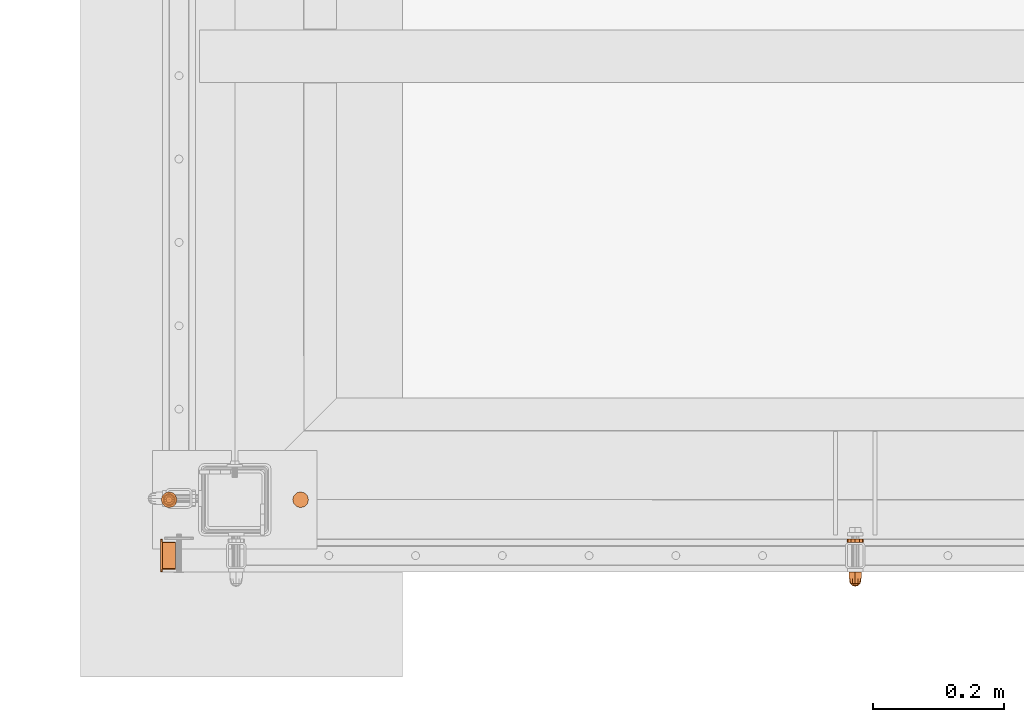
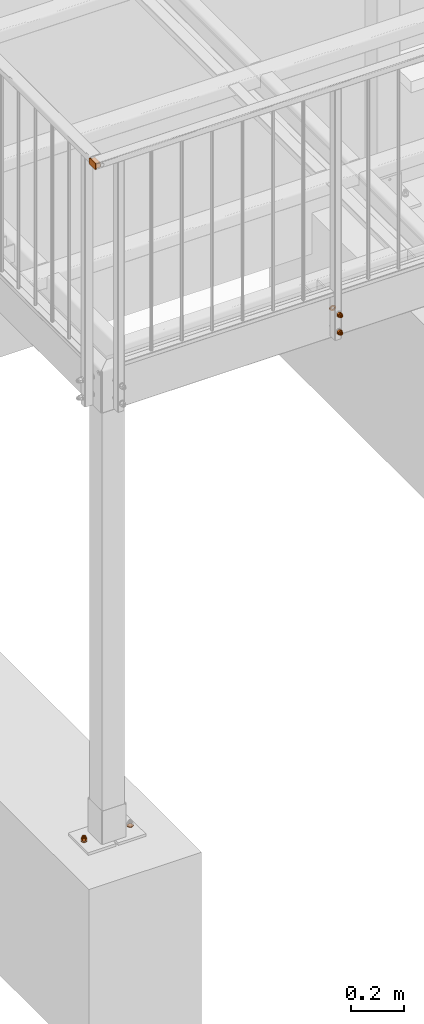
# One storey, part 99 of 116: 7 proxies.
"""IFC2X3 building model written with IfcOpenShell, lengths in millimetres."""

from ifc_helpers import new_model, entity, si_unit, converted_unit, origin_with_axes, place, context, project, spatial, faceted_brep, material, element, save


model = new_model("IFC2X3")

# Units and contexts
model_context = context("Model", 3, precision=1e-09, world=origin_with_axes())
ifc_project = project(units=[si_unit("LENGTHUNIT", "METRE", prefix="MILLI"), si_unit("AREAUNIT", "SQUARE_METRE"), si_unit("VOLUMEUNIT", "CUBIC_METRE"), converted_unit("PLANEANGLEUNIT", "DEGREE", entity("IfcPlaneAngleMeasure", 0.01745329), si_unit("PLANEANGLEUNIT", "RADIAN"), dimensions=[0, 0, 0, 0, 0, 0, 0])], contexts=[model_context])

# Site, building, storey
site_placement = place(None, origin_with_axes())
site = spatial("IfcSite", under=ifc_project, at=site_placement, Name="Site", CompositionType="ELEMENT")
building_placement = place(site_placement, origin_with_axes())
building = spatial("IfcBuilding", under=site, at=building_placement, Name="Struktur 1", CompositionType="ELEMENT")
storey_placement = place(building_placement, origin_with_axes())
storey = spatial("IfcBuildingStorey", under=building, at=storey_placement, Name="Default Storey", CompositionType="ELEMENT", Elevation=0.0)

# Proxies
ifc_material = material(Name="Kein")
proxy_1_placement = place(None, origin_with_axes())
element("IfcBuildingElementProxy", 1, at=proxy_1_placement, inside=storey, material=ifc_material, ObjectType="-", context=model_context, shape_type="Brep", body=[
    faceted_brep([(56275.049134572, 9022.359883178, -145.0), (56275.049134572, 9012.359883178, -145.0), (56275.852982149, 9012.359883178, -148.0), (56275.852982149, 9022.359883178, -148.0), (56278.049134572, 9012.359883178, -150.196152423), (56278.049134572, 9022.359883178, -150.196152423), (56275.852982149, 9022.359883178, -142.0), (56275.852982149, 9012.359883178, -142.0), (56271.569265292, 9022.359883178, -139.526794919), (56281.049134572, 9022.359883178, -134.053589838), (56290.529003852, 9022.359883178, -139.526794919), (56290.529003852, 9022.359883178, -150.473205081), (56281.049134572, 9022.359883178, -155.946410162), (56271.569265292, 9022.359883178, -150.473205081), (56278.049134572, 9022.359883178, -139.803847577), (56281.049134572, 9022.359883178, -151.0), (56284.049134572, 9022.359883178, -150.196152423), (56286.245286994, 9022.359883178, -148.0), (56287.049134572, 9022.359883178, -145.0), (56286.245286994, 9022.359883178, -142.0), (56284.049134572, 9022.359883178, -139.803847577), (56281.049134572, 9022.359883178, -139.0), (56281.049134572, 9012.359883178, -134.053589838), (56271.569265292, 9012.359883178, -139.526794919), (56271.569265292, 9012.359883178, -150.473205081), (56281.049134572, 9012.359883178, -155.946410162), (56290.529003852, 9012.359883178, -150.473205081), (56290.529003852, 9012.359883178, -139.526794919), (56278.049134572, 9012.359883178, -139.803847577), (56281.049134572, 9012.359883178, -139.0), (56284.049134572, 9012.359883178, -139.803847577), (56286.245286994, 9012.359883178, -142.0), (56287.049134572, 9012.359883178, -145.0), (56286.245286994, 9012.359883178, -148.0), (56284.049134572, 9012.359883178, -150.196152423), (56281.049134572, 9012.359883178, -151.0)], [[[0, 1, 2, 3]], [[3, 2, 4, 5]], [[1, 0, 6, 7]], [[8, 9, 10, 11, 12, 13], [14, 6, 0, 3, 5, 15, 16, 17, 18, 19, 20, 21]], [[22, 23, 24, 25, 26, 27], [1, 7, 28, 29, 30, 31, 32, 33, 34, 35, 4, 2]], [[7, 6, 14, 28]], [[24, 23, 8, 13]], [[5, 4, 35, 15]], [[13, 12, 25, 24]], [[28, 14, 21, 29]], [[23, 22, 9, 8]], [[15, 35, 34, 16]], [[12, 11, 26, 25]], [[29, 21, 20, 30]], [[22, 27, 10, 9]], [[16, 34, 33, 17]], [[27, 26, 11, 10]], [[30, 20, 19, 31]], [[17, 33, 32, 18]], [[31, 19, 18, 32]]]),
    faceted_brep([(56281.049134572, 9012.359883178, -136.0), (56281.049134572, 9009.359883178, -136.0), (56285.549134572, 9009.359883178, -137.205771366), (56285.549134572, 9012.359883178, -137.205771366), (56276.549134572, 9012.359883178, -137.205771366), (56276.549134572, 9009.359883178, -137.205771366), (56273.254905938, 9009.359883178, -149.5), (56276.549134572, 9009.359883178, -152.794228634), (56281.049134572, 9009.359883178, -154.0), (56285.549134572, 9009.359883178, -152.794228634), (56288.843363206, 9009.359883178, -149.5), (56290.049134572, 9009.359883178, -145.0), (56288.843363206, 9009.359883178, -140.5), (56273.254905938, 9009.359883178, -140.5), (56272.049134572, 9009.359883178, -145.0), (56288.843363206, 9012.359883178, -149.5), (56285.549134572, 9012.359883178, -152.794228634), (56281.049134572, 9012.359883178, -154.0), (56276.549134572, 9012.359883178, -152.794228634), (56273.254905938, 9012.359883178, -149.5), (56272.049134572, 9012.359883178, -145.0), (56273.254905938, 9012.359883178, -140.5), (56288.843363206, 9012.359883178, -140.5), (56290.049134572, 9012.359883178, -145.0)], [[[0, 1, 2, 3]], [[1, 0, 4, 5]], [[6, 7, 8, 9, 10, 11, 12, 2, 1, 5, 13, 14]], [[15, 16, 17, 18, 19, 20, 21, 4, 0, 3, 22, 23]], [[3, 2, 12, 22]], [[5, 4, 21, 13]], [[22, 12, 11, 23]], [[13, 21, 20, 14]], [[7, 18, 17, 8]], [[19, 6, 14, 20]], [[18, 7, 6, 19]], [[23, 11, 10, 15]], [[8, 17, 16, 9]], [[15, 10, 9, 16]]]),
    faceted_brep([(56273.254905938, 9009.359883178, -140.5), (56274.299134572, 9004.859883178, -141.102885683), (56277.152020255, 9004.859883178, -138.25), (56276.549134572, 9009.359883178, -137.205771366), (56288.843363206, 9009.359883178, -149.5), (56285.549134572, 9009.359883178, -152.794228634), (56281.049134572, 9009.359883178, -154.0), (56276.549134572, 9009.359883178, -152.794228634), (56273.254905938, 9009.359883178, -149.5), (56272.049134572, 9009.359883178, -145.0), (56281.049134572, 9009.359883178, -136.0), (56285.549134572, 9009.359883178, -137.205771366), (56288.843363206, 9009.359883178, -140.5), (56290.049134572, 9009.359883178, -145.0), (56281.049134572, 9004.859883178, -137.205771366), (56273.254905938, 9004.859883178, -145.0), (56276.549134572, 9001.565654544, -145.0), (56277.152020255, 9001.565654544, -142.75), (56284.946248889, 9004.859883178, -138.25), (56278.799134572, 9001.565654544, -141.102885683), (56274.299134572, 9004.859883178, -148.897114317), (56277.152020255, 9001.565654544, -147.25), (56281.049134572, 9001.565654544, -140.5), (56281.049134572, 9000.359883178, -145.0), (56277.152020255, 9004.859883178, -151.75), (56278.799134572, 9001.565654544, -148.897114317), (56281.049134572, 9004.859883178, -152.794228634), (56287.799134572, 9004.859883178, -141.102885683), (56283.299134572, 9001.565654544, -141.102885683), (56281.049134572, 9001.565654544, -149.5), (56284.946248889, 9004.859883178, -151.75), (56283.299134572, 9001.565654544, -148.897114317), (56288.843363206, 9004.859883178, -145.0), (56284.946248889, 9001.565654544, -142.75), (56287.799134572, 9004.859883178, -148.897114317), (56284.946248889, 9001.565654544, -147.25), (56285.549134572, 9001.565654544, -145.0)], [[[0, 1, 2, 3]], [[4, 5, 6, 7, 8, 9, 0, 3, 10, 11, 12, 13]], [[3, 2, 14, 10]], [[15, 16, 17, 1]], [[1, 0, 9, 15]], [[10, 14, 18, 11]], [[1, 17, 19, 2]], [[16, 15, 20, 21]], [[2, 19, 22, 14]], [[23, 17, 16]], [[24, 25, 21, 20]], [[23, 16, 21]], [[24, 7, 6, 26]], [[20, 8, 7, 24]], [[15, 9, 8, 20]], [[11, 18, 27, 12]], [[14, 22, 28, 18]], [[23, 19, 17]], [[26, 29, 25, 24]], [[23, 21, 25]], [[23, 22, 19]], [[26, 6, 5, 30]], [[29, 26, 30, 31]], [[23, 25, 29]], [[12, 27, 32, 13]], [[18, 28, 33, 27]], [[23, 28, 22]], [[23, 29, 31]], [[23, 33, 28]], [[30, 5, 4, 34]], [[31, 30, 34, 35]], [[23, 31, 35]], [[13, 32, 34, 4]], [[27, 33, 36, 32]], [[23, 36, 33]], [[23, 35, 36]], [[35, 34, 32, 36]]]),
])
proxy_2_placement = place(None, origin_with_axes())
element("IfcBuildingElementProxy", 2, at=proxy_2_placement, inside=storey, material=ifc_material, ObjectType="-", context=model_context, shape_type="Brep", body=[
    faceted_brep([(56275.049134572, 9022.359883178, -65.0), (56275.049134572, 9012.359883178, -65.0), (56275.852982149, 9012.359883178, -68.0), (56275.852982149, 9022.359883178, -68.0), (56278.049134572, 9012.359883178, -70.196152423), (56278.049134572, 9022.359883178, -70.196152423), (56275.852982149, 9022.359883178, -62.0), (56275.852982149, 9012.359883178, -62.0), (56271.569265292, 9022.359883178, -59.526794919), (56281.049134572, 9022.359883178, -54.053589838), (56290.529003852, 9022.359883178, -59.526794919), (56290.529003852, 9022.359883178, -70.473205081), (56281.049134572, 9022.359883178, -75.946410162), (56271.569265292, 9022.359883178, -70.473205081), (56278.049134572, 9022.359883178, -59.803847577), (56281.049134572, 9022.359883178, -71.0), (56284.049134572, 9022.359883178, -70.196152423), (56286.245286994, 9022.359883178, -68.0), (56287.049134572, 9022.359883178, -65.0), (56286.245286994, 9022.359883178, -62.0), (56284.049134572, 9022.359883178, -59.803847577), (56281.049134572, 9022.359883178, -59.0), (56281.049134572, 9012.359883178, -54.053589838), (56271.569265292, 9012.359883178, -59.526794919), (56271.569265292, 9012.359883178, -70.473205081), (56281.049134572, 9012.359883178, -75.946410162), (56290.529003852, 9012.359883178, -70.473205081), (56290.529003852, 9012.359883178, -59.526794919), (56278.049134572, 9012.359883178, -59.803847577), (56281.049134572, 9012.359883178, -59.0), (56284.049134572, 9012.359883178, -59.803847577), (56286.245286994, 9012.359883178, -62.0), (56287.049134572, 9012.359883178, -65.0), (56286.245286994, 9012.359883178, -68.0), (56284.049134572, 9012.359883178, -70.196152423), (56281.049134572, 9012.359883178, -71.0)], [[[0, 1, 2, 3]], [[3, 2, 4, 5]], [[1, 0, 6, 7]], [[8, 9, 10, 11, 12, 13], [14, 6, 0, 3, 5, 15, 16, 17, 18, 19, 20, 21]], [[22, 23, 24, 25, 26, 27], [1, 7, 28, 29, 30, 31, 32, 33, 34, 35, 4, 2]], [[7, 6, 14, 28]], [[24, 23, 8, 13]], [[5, 4, 35, 15]], [[13, 12, 25, 24]], [[28, 14, 21, 29]], [[23, 22, 9, 8]], [[15, 35, 34, 16]], [[12, 11, 26, 25]], [[29, 21, 20, 30]], [[22, 27, 10, 9]], [[16, 34, 33, 17]], [[27, 26, 11, 10]], [[30, 20, 19, 31]], [[17, 33, 32, 18]], [[31, 19, 18, 32]]]),
    faceted_brep([(56281.049134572, 9012.359883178, -56.0), (56281.049134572, 9009.359883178, -56.0), (56285.549134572, 9009.359883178, -57.205771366), (56285.549134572, 9012.359883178, -57.205771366), (56276.549134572, 9012.359883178, -57.205771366), (56276.549134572, 9009.359883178, -57.205771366), (56273.254905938, 9009.359883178, -69.5), (56276.549134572, 9009.359883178, -72.794228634), (56281.049134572, 9009.359883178, -74.0), (56285.549134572, 9009.359883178, -72.794228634), (56288.843363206, 9009.359883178, -69.5), (56290.049134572, 9009.359883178, -65.0), (56288.843363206, 9009.359883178, -60.5), (56273.254905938, 9009.359883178, -60.5), (56272.049134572, 9009.359883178, -65.0), (56288.843363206, 9012.359883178, -69.5), (56285.549134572, 9012.359883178, -72.794228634), (56281.049134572, 9012.359883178, -74.0), (56276.549134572, 9012.359883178, -72.794228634), (56273.254905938, 9012.359883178, -69.5), (56272.049134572, 9012.359883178, -65.0), (56273.254905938, 9012.359883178, -60.5), (56288.843363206, 9012.359883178, -60.5), (56290.049134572, 9012.359883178, -65.0)], [[[0, 1, 2, 3]], [[1, 0, 4, 5]], [[6, 7, 8, 9, 10, 11, 12, 2, 1, 5, 13, 14]], [[15, 16, 17, 18, 19, 20, 21, 4, 0, 3, 22, 23]], [[3, 2, 12, 22]], [[5, 4, 21, 13]], [[22, 12, 11, 23]], [[13, 21, 20, 14]], [[7, 18, 17, 8]], [[19, 6, 14, 20]], [[18, 7, 6, 19]], [[23, 11, 10, 15]], [[8, 17, 16, 9]], [[15, 10, 9, 16]]]),
    faceted_brep([(56273.254905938, 9009.359883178, -60.5), (56274.299134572, 9004.859883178, -61.102885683), (56277.152020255, 9004.859883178, -58.25), (56276.549134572, 9009.359883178, -57.205771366), (56288.843363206, 9009.359883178, -69.5), (56285.549134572, 9009.359883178, -72.794228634), (56281.049134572, 9009.359883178, -74.0), (56276.549134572, 9009.359883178, -72.794228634), (56273.254905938, 9009.359883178, -69.5), (56272.049134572, 9009.359883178, -65.0), (56281.049134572, 9009.359883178, -56.0), (56285.549134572, 9009.359883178, -57.205771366), (56288.843363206, 9009.359883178, -60.5), (56290.049134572, 9009.359883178, -65.0), (56281.049134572, 9004.859883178, -57.205771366), (56273.254905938, 9004.859883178, -65.0), (56276.549134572, 9001.565654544, -65.0), (56277.152020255, 9001.565654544, -62.75), (56284.946248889, 9004.859883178, -58.25), (56278.799134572, 9001.565654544, -61.102885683), (56274.299134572, 9004.859883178, -68.897114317), (56277.152020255, 9001.565654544, -67.25), (56281.049134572, 9001.565654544, -60.5), (56281.049134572, 9000.359883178, -65.0), (56277.152020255, 9004.859883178, -71.75), (56278.799134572, 9001.565654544, -68.897114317), (56281.049134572, 9004.859883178, -72.794228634), (56287.799134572, 9004.859883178, -61.102885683), (56283.299134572, 9001.565654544, -61.102885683), (56281.049134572, 9001.565654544, -69.5), (56284.946248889, 9004.859883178, -71.75), (56283.299134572, 9001.565654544, -68.897114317), (56288.843363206, 9004.859883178, -65.0), (56284.946248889, 9001.565654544, -62.75), (56287.799134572, 9004.859883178, -68.897114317), (56284.946248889, 9001.565654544, -67.25), (56285.549134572, 9001.565654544, -65.0)], [[[0, 1, 2, 3]], [[4, 5, 6, 7, 8, 9, 0, 3, 10, 11, 12, 13]], [[3, 2, 14, 10]], [[15, 16, 17, 1]], [[1, 0, 9, 15]], [[10, 14, 18, 11]], [[1, 17, 19, 2]], [[16, 15, 20, 21]], [[2, 19, 22, 14]], [[23, 17, 16]], [[24, 25, 21, 20]], [[23, 16, 21]], [[24, 7, 6, 26]], [[20, 8, 7, 24]], [[15, 9, 8, 20]], [[11, 18, 27, 12]], [[14, 22, 28, 18]], [[23, 19, 17]], [[26, 29, 25, 24]], [[23, 21, 25]], [[23, 22, 19]], [[26, 6, 5, 30]], [[29, 26, 30, 31]], [[23, 25, 29]], [[12, 27, 32, 13]], [[18, 28, 33, 27]], [[23, 28, 22]], [[23, 29, 31]], [[23, 33, 28]], [[30, 5, 4, 34]], [[31, 30, 34, 35]], [[23, 31, 35]], [[13, 32, 34, 4]], [[27, 33, 36, 32]], [[23, 36, 33]], [[23, 35, 36]], [[35, 34, 32, 36]]]),
])
proxy_3_placement = place(None, origin_with_axes())
element("IfcBuildingElementProxy", 3, at=proxy_3_placement, inside=storey, material=ifc_material, ObjectType="-", context=model_context, shape_type="Brep", body=[
    faceted_brep([(56270.223817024, 9067.359883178, -71.25), (56274.799134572, 9067.359883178, -75.825317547), (56281.049134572, 9067.359883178, -77.5), (56287.299134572, 9067.359883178, -75.825317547), (56291.874452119, 9067.359883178, -71.25), (56293.549134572, 9067.359883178, -65.0), (56291.874452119, 9067.359883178, -58.75), (56287.299134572, 9067.359883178, -54.174682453), (56281.049134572, 9067.359883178, -52.5), (56274.799134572, 9067.359883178, -54.174682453), (56270.223817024, 9067.359883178, -58.75), (56268.549134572, 9067.359883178, -65.0), (56281.049134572, 9067.359883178, -71.0), (56278.049134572, 9067.359883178, -70.196152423), (56275.852982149, 9067.359883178, -68.0), (56275.049134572, 9067.359883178, -65.0), (56275.852982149, 9067.359883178, -62.0), (56278.049134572, 9067.359883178, -59.803847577), (56281.049134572, 9067.359883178, -59.0), (56284.049134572, 9067.359883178, -59.803847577), (56286.245286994, 9067.359883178, -62.0), (56287.049134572, 9067.359883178, -65.0), (56286.245286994, 9067.359883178, -68.0), (56284.049134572, 9067.359883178, -70.196152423), (56270.223817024, 9072.359883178, -71.25), (56274.799134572, 9072.359883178, -75.825317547), (56268.549134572, 9072.359883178, -65.0), (56270.223817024, 9072.359883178, -58.75), (56274.799134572, 9072.359883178, -54.174682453), (56281.049134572, 9072.359883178, -52.5), (56287.299134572, 9072.359883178, -54.174682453), (56291.874452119, 9072.359883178, -58.75), (56293.549134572, 9072.359883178, -65.0), (56291.874452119, 9072.359883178, -71.25), (56287.299134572, 9072.359883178, -75.825317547), (56281.049134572, 9072.359883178, -77.5), (56275.852982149, 9072.359883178, -62.0), (56275.049134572, 9072.359883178, -65.0), (56275.852982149, 9072.359883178, -68.0), (56278.049134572, 9072.359883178, -70.196152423), (56281.049134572, 9072.359883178, -71.0), (56284.049134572, 9072.359883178, -70.196152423), (56286.245286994, 9072.359883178, -68.0), (56287.049134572, 9072.359883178, -65.0), (56286.245286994, 9072.359883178, -62.0), (56284.049134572, 9072.359883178, -59.803847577), (56281.049134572, 9072.359883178, -59.0), (56278.049134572, 9072.359883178, -59.803847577)], [[[0, 1, 2, 3, 4, 5, 6, 7, 8, 9, 10, 11], [12, 13, 14, 15, 16, 17, 18, 19, 20, 21, 22, 23]], [[0, 24, 25, 1]], [[24, 26, 27, 28, 29, 30, 31, 32, 33, 34, 35, 25], [36, 37, 38, 39, 40, 41, 42, 43, 44, 45, 46, 47]], [[38, 14, 13, 39]], [[24, 0, 11, 26]], [[14, 38, 37, 15]], [[39, 13, 12, 40]], [[1, 25, 35, 2]], [[26, 11, 10, 27]], [[15, 37, 36, 16]], [[40, 12, 23, 41]], [[2, 35, 34, 3]], [[27, 10, 9, 28]], [[16, 36, 47, 17]], [[22, 42, 41, 23]], [[3, 34, 33, 4]], [[42, 22, 21, 43]], [[28, 9, 8, 29]], [[17, 47, 46, 18]], [[20, 44, 43, 21]], [[4, 33, 32, 5]], [[45, 19, 18, 46]], [[44, 20, 19, 45]], [[29, 8, 7, 30]], [[5, 32, 31, 6]], [[30, 7, 6, 31]]]),
])
proxy_4_placement = place(None, origin_with_axes())
element("IfcBuildingElementProxy", 4, at=proxy_4_placement, inside=storey, material=ifc_material, ObjectType="-", context=model_context, shape_type="Brep", body=[
    faceted_brep([(55447.441439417, 9138.358883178, -2185.0), (55447.441439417, 9138.358883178, -2182.5), (55449.049134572, 9132.358883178, -2182.5), (55449.049134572, 9132.358883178, -2185.0), (55442.678299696, 9135.608883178, -2185.0), (55440.299134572, 9137.988048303, -2185.0), (55437.049134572, 9138.858883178, -2185.0), (55433.799134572, 9137.988048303, -2185.0), (55431.419969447, 9135.608883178, -2185.0), (55430.549134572, 9132.358883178, -2185.0), (55431.419969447, 9129.108883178, -2185.0), (55433.799134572, 9126.729718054, -2185.0), (55437.049134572, 9125.858883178, -2185.0), (55440.299134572, 9126.729718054, -2185.0), (55442.678299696, 9129.108883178, -2185.0), (55443.549134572, 9132.358883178, -2185.0), (55443.549134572, 9132.358883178, -2182.5), (55442.678299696, 9135.608883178, -2182.5), (55443.049134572, 9142.751188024, -2182.5), (55437.049134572, 9144.358883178, -2182.5), (55431.049134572, 9142.751188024, -2182.5), (55426.656829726, 9138.358883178, -2182.5), (55425.049134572, 9132.358883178, -2182.5), (55426.656829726, 9126.358883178, -2182.5), (55431.049134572, 9121.966578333, -2182.5), (55437.049134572, 9120.358883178, -2182.5), (55443.049134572, 9121.966578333, -2182.5), (55447.441439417, 9126.358883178, -2182.5), (55443.049134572, 9142.751188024, -2185.0), (55442.678299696, 9129.108883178, -2182.5), (55447.441439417, 9126.358883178, -2185.0), (55440.299134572, 9137.988048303, -2182.5), (55437.049134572, 9144.358883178, -2185.0), (55440.299134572, 9126.729718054, -2182.5), (55443.049134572, 9121.966578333, -2185.0), (55437.049134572, 9138.858883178, -2182.5), (55437.049134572, 9125.858883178, -2182.5), (55431.049134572, 9142.751188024, -2185.0), (55433.799134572, 9137.988048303, -2182.5), (55437.049134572, 9120.358883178, -2185.0), (55433.799134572, 9126.729718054, -2182.5), (55426.656829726, 9138.358883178, -2185.0), (55431.419969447, 9135.608883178, -2182.5), (55431.049134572, 9121.966578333, -2185.0), (55431.419969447, 9129.108883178, -2182.5), (55425.049134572, 9132.358883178, -2185.0), (55430.549134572, 9132.358883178, -2182.5), (55426.656829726, 9126.358883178, -2185.0)], [[[0, 1, 2, 3]], [[4, 5, 6, 7, 8, 9, 10, 11, 12, 13, 14, 15]], [[15, 16, 17, 4]], [[1, 18, 19, 20, 21, 22, 23, 24, 25, 26, 27, 2]], [[1, 0, 28, 18]], [[16, 15, 14, 29]], [[3, 2, 27, 30]], [[4, 17, 31, 5]], [[18, 28, 32, 19]], [[29, 14, 13, 33]], [[30, 27, 26, 34]], [[5, 31, 35, 6]], [[33, 13, 12, 36]], [[19, 32, 37, 20]], [[6, 35, 38, 7]], [[34, 26, 25, 39]], [[36, 12, 11, 40]], [[20, 37, 41, 21]], [[7, 38, 42, 8]], [[39, 25, 24, 43]], [[40, 11, 10, 44]], [[21, 41, 45, 22]], [[8, 42, 46, 9]], [[43, 24, 23, 47]], [[44, 10, 9, 46]], [[22, 45, 47, 23]]]),
])
proxy_5_placement = place(None, origin_with_axes())
element("IfcBuildingElementProxy", 5, at=proxy_5_placement, inside=storey, material=ifc_material, ObjectType="-", context=model_context, shape_type="Brep", body=[
    faceted_brep([(55231.049134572, 9132.358883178, -2170.0), (55231.049134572, 9132.358883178, -2180.0), (55231.852982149, 9135.358883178, -2180.0), (55231.852982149, 9135.358883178, -2170.0), (55234.049134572, 9137.555035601, -2180.0), (55234.049134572, 9137.555035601, -2170.0), (55231.852982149, 9129.358883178, -2170.0), (55231.852982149, 9129.358883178, -2180.0), (55227.569265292, 9126.885678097, -2180.0), (55227.569265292, 9137.832088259, -2180.0), (55237.049134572, 9143.30529334, -2180.0), (55246.529003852, 9137.832088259, -2180.0), (55246.529003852, 9126.885678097, -2180.0), (55237.049134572, 9121.412473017, -2180.0), (55234.049134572, 9127.162730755, -2180.0), (55237.049134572, 9126.358883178, -2180.0), (55240.049134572, 9127.162730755, -2180.0), (55242.245286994, 9129.358883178, -2180.0), (55243.049134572, 9132.358883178, -2180.0), (55242.245286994, 9135.358883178, -2180.0), (55240.049134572, 9137.555035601, -2180.0), (55237.049134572, 9138.358883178, -2180.0), (55227.569265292, 9126.885678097, -2170.0), (55237.049134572, 9121.412473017, -2170.0), (55246.529003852, 9126.885678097, -2170.0), (55246.529003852, 9137.832088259, -2170.0), (55237.049134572, 9143.30529334, -2170.0), (55227.569265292, 9137.832088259, -2170.0), (55234.049134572, 9127.162730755, -2170.0), (55237.049134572, 9138.358883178, -2170.0), (55237.049134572, 9126.358883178, -2170.0), (55240.049134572, 9137.555035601, -2170.0), (55240.049134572, 9127.162730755, -2170.0), (55242.245286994, 9135.358883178, -2170.0), (55242.245286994, 9129.358883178, -2170.0), (55243.049134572, 9132.358883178, -2170.0)], [[[0, 1, 2, 3]], [[3, 2, 4, 5]], [[1, 0, 6, 7]], [[8, 9, 10, 11, 12, 13], [7, 14, 15, 16, 17, 18, 19, 20, 21, 4, 2, 1]], [[22, 23, 24, 25, 26, 27]], [[7, 6, 28, 14]], [[22, 27, 9, 8]], [[5, 4, 21, 29]], [[10, 9, 27, 26]], [[14, 28, 30, 15]], [[23, 22, 8, 13]], [[29, 21, 20, 31]], [[11, 10, 26, 25]], [[15, 30, 32, 16]], [[24, 23, 13, 12]], [[31, 20, 19, 33]], [[25, 24, 12, 11]], [[16, 32, 34, 17]], [[33, 19, 18, 35]], [[17, 34, 35, 18]]]),
    faceted_brep([(55237.049134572, 9123.358883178, -2167.0), (55237.049134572, 9123.358883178, -2170.0), (55241.549134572, 9124.564654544, -2170.0), (55241.549134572, 9124.564654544, -2167.0), (55232.549134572, 9124.564654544, -2167.0), (55232.549134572, 9124.564654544, -2170.0), (55232.549134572, 9140.153111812, -2167.0), (55229.254905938, 9136.858883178, -2167.0), (55228.049134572, 9132.358883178, -2167.0), (55229.254905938, 9127.858883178, -2167.0), (55244.843363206, 9127.858883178, -2167.0), (55246.049134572, 9132.358883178, -2167.0), (55244.843363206, 9136.858883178, -2167.0), (55241.549134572, 9140.153111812, -2167.0), (55237.049134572, 9141.358883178, -2167.0), (55241.549134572, 9140.153111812, -2170.0), (55244.843363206, 9136.858883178, -2170.0), (55246.049134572, 9132.358883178, -2170.0), (55244.843363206, 9127.858883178, -2170.0), (55229.254905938, 9127.858883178, -2170.0), (55228.049134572, 9132.358883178, -2170.0), (55229.254905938, 9136.858883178, -2170.0), (55232.549134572, 9140.153111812, -2170.0), (55237.049134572, 9141.358883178, -2170.0)], [[[0, 1, 2, 3]], [[1, 0, 4, 5]], [[6, 7, 8, 9, 4, 0, 3, 10, 11, 12, 13, 14]], [[15, 16, 17, 18, 2, 1, 5, 19, 20, 21, 22, 23]], [[3, 2, 18, 10]], [[5, 4, 9, 19]], [[10, 18, 17, 11]], [[19, 9, 8, 20]], [[22, 6, 14, 23]], [[7, 21, 20, 8]], [[6, 22, 21, 7]], [[11, 17, 16, 12]], [[23, 14, 13, 15]], [[12, 16, 15, 13]]]),
    faceted_brep([(55230.299134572, 9128.461768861, -2162.5), (55229.254905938, 9127.858883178, -2167.0), (55232.549134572, 9124.564654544, -2167.0), (55233.152020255, 9125.608883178, -2162.5), (55241.549134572, 9140.153111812, -2167.0), (55244.843363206, 9136.858883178, -2167.0), (55246.049134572, 9132.358883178, -2167.0), (55244.843363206, 9127.858883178, -2167.0), (55241.549134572, 9124.564654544, -2167.0), (55237.049134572, 9123.358883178, -2167.0), (55228.049134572, 9132.358883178, -2167.0), (55229.254905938, 9136.858883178, -2167.0), (55232.549134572, 9140.153111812, -2167.0), (55237.049134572, 9141.358883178, -2167.0), (55237.049134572, 9124.564654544, -2162.5), (55232.549134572, 9132.358883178, -2159.205771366), (55229.254905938, 9132.358883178, -2162.5), (55233.152020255, 9130.108883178, -2159.205771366), (55240.946248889, 9125.608883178, -2162.5), (55234.799134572, 9128.461768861, -2159.205771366), (55233.152020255, 9134.608883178, -2159.205771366), (55230.299134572, 9136.255997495, -2162.5), (55237.049134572, 9127.858883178, -2159.205771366), (55237.049134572, 9132.358883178, -2158.0), (55234.799134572, 9136.255997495, -2159.205771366), (55233.152020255, 9139.108883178, -2162.5), (55237.049134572, 9140.153111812, -2162.5), (55243.799134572, 9128.461768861, -2162.5), (55239.299134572, 9128.461768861, -2159.205771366), (55237.049134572, 9136.858883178, -2159.205771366), (55240.946248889, 9139.108883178, -2162.5), (55239.299134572, 9136.255997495, -2159.205771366), (55244.843363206, 9132.358883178, -2162.5), (55240.946248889, 9130.108883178, -2159.205771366), (55243.799134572, 9136.255997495, -2162.5), (55240.946248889, 9134.608883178, -2159.205771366), (55241.549134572, 9132.358883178, -2159.205771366)], [[[0, 1, 2, 3]], [[4, 5, 6, 7, 8, 9, 2, 1, 10, 11, 12, 13]], [[3, 2, 9, 14]], [[15, 16, 0, 17]], [[1, 0, 16, 10]], [[14, 9, 8, 18]], [[17, 0, 3, 19]], [[16, 15, 20, 21]], [[19, 3, 14, 22]], [[17, 23, 15]], [[24, 25, 21, 20]], [[15, 23, 20]], [[12, 25, 26, 13]], [[11, 21, 25, 12]], [[10, 16, 21, 11]], [[18, 8, 7, 27]], [[22, 14, 18, 28]], [[19, 23, 17]], [[29, 26, 25, 24]], [[20, 23, 24]], [[22, 23, 19]], [[13, 26, 30, 4]], [[26, 29, 31, 30]], [[24, 23, 29]], [[27, 7, 6, 32]], [[28, 18, 27, 33]], [[28, 23, 22]], [[29, 23, 31]], [[33, 23, 28]], [[4, 30, 34, 5]], [[30, 31, 35, 34]], [[31, 23, 35]], [[32, 6, 5, 34]], [[33, 27, 32, 36]], [[36, 23, 33]], [[35, 23, 36]], [[34, 35, 36, 32]]]),
])
proxy_6_placement = place(None, origin_with_axes())
element("IfcBuildingElementProxy", 6, at=proxy_6_placement, inside=storey, material=ifc_material, ObjectType="-", context=model_context, shape_type="Brep", body=[
    faceted_brep([(55247.441439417, 9138.358883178, -2185.0), (55247.441439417, 9138.358883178, -2182.5), (55249.049134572, 9132.358883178, -2182.5), (55249.049134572, 9132.358883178, -2185.0), (55242.678299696, 9135.608883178, -2185.0), (55240.299134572, 9137.988048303, -2185.0), (55237.049134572, 9138.858883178, -2185.0), (55233.799134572, 9137.988048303, -2185.0), (55231.419969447, 9135.608883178, -2185.0), (55230.549134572, 9132.358883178, -2185.0), (55231.419969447, 9129.108883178, -2185.0), (55233.799134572, 9126.729718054, -2185.0), (55237.049134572, 9125.858883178, -2185.0), (55240.299134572, 9126.729718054, -2185.0), (55242.678299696, 9129.108883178, -2185.0), (55243.549134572, 9132.358883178, -2185.0), (55243.549134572, 9132.358883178, -2182.5), (55242.678299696, 9135.608883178, -2182.5), (55243.049134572, 9142.751188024, -2182.5), (55237.049134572, 9144.358883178, -2182.5), (55231.049134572, 9142.751188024, -2182.5), (55226.656829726, 9138.358883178, -2182.5), (55225.049134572, 9132.358883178, -2182.5), (55226.656829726, 9126.358883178, -2182.5), (55231.049134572, 9121.966578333, -2182.5), (55237.049134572, 9120.358883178, -2182.5), (55243.049134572, 9121.966578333, -2182.5), (55247.441439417, 9126.358883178, -2182.5), (55243.049134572, 9142.751188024, -2185.0), (55242.678299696, 9129.108883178, -2182.5), (55247.441439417, 9126.358883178, -2185.0), (55240.299134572, 9137.988048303, -2182.5), (55237.049134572, 9144.358883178, -2185.0), (55240.299134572, 9126.729718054, -2182.5), (55243.049134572, 9121.966578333, -2185.0), (55237.049134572, 9138.858883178, -2182.5), (55237.049134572, 9125.858883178, -2182.5), (55231.049134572, 9142.751188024, -2185.0), (55233.799134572, 9137.988048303, -2182.5), (55237.049134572, 9120.358883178, -2185.0), (55233.799134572, 9126.729718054, -2182.5), (55226.656829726, 9138.358883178, -2185.0), (55231.419969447, 9135.608883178, -2182.5), (55231.049134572, 9121.966578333, -2185.0), (55231.419969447, 9129.108883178, -2182.5), (55225.049134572, 9132.358883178, -2185.0), (55230.549134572, 9132.358883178, -2182.5), (55226.656829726, 9126.358883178, -2185.0)], [[[0, 1, 2, 3]], [[4, 5, 6, 7, 8, 9, 10, 11, 12, 13, 14, 15]], [[15, 16, 17, 4]], [[1, 18, 19, 20, 21, 22, 23, 24, 25, 26, 27, 2]], [[1, 0, 28, 18]], [[16, 15, 14, 29]], [[3, 2, 27, 30]], [[4, 17, 31, 5]], [[18, 28, 32, 19]], [[29, 14, 13, 33]], [[30, 27, 26, 34]], [[5, 31, 35, 6]], [[33, 13, 12, 36]], [[19, 32, 37, 20]], [[6, 35, 38, 7]], [[34, 26, 25, 39]], [[36, 12, 11, 40]], [[20, 37, 41, 21]], [[7, 38, 42, 8]], [[39, 25, 24, 43]], [[40, 11, 10, 44]], [[21, 41, 45, 22]], [[8, 42, 46, 9]], [[43, 24, 23, 47]], [[44, 10, 9, 46]], [[22, 45, 47, 23]]]),
])
proxy_7_placement = place(None, origin_with_axes())
element("IfcBuildingElementProxy", 7, at=proxy_7_placement, inside=storey, material=ifc_material, ObjectType="-", context=model_context, shape_type="Brep", body=[
    faceted_brep([(55247.049134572, 9026.358883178, 971.0), (55247.049134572, 9026.358883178, 989.0), (55227.049134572, 9026.358883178, 989.0), (55227.049134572, 9026.358883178, 971.0), (55247.049134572, 9026.626832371, 990.0), (55227.049134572, 9026.626832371, 990.0), (55227.049134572, 9027.358883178, 990.732050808), (55247.049134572, 9027.358883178, 990.732050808), (55247.049134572, 9028.358883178, 991.0), (55227.049134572, 9028.358883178, 991.0), (55227.049134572, 9026.626832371, 970.0), (55247.049134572, 9026.626832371, 970.0), (55227.049134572, 9027.358883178, 969.267949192), (55247.049134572, 9027.358883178, 969.267949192), (55247.049134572, 9028.358883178, 969.0), (55247.049134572, 9066.358883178, 969.0), (55247.049134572, 9067.358883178, 969.267949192), (55247.049134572, 9068.090933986, 970.0), (55247.049134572, 9068.358883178, 971.0), (55247.049134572, 9068.358883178, 989.0), (55247.049134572, 9068.090933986, 990.0), (55247.049134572, 9067.358883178, 990.732050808), (55247.049134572, 9066.358883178, 991.0), (55247.049134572, 9030.358883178, 987.0), (55247.049134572, 9064.358883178, 987.0), (55247.049134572, 9064.358883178, 973.0), (55247.049134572, 9030.358883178, 973.0), (55227.049134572, 9066.358883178, 991.0), (55227.049134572, 9067.358883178, 990.732050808), (55227.049134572, 9068.090933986, 990.0), (55227.049134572, 9068.358883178, 989.0), (55227.049134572, 9068.358883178, 971.0), (55227.049134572, 9068.090933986, 970.0), (55227.049134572, 9067.358883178, 969.267949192), (55227.049134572, 9066.358883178, 969.0), (55227.049134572, 9028.358883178, 969.0), (55227.049134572, 9030.358883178, 987.0), (55227.049134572, 9030.358883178, 973.0), (55227.049134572, 9064.358883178, 973.0), (55227.049134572, 9064.358883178, 987.0)], [[[0, 1, 2, 3]], [[2, 1, 4, 5]], [[6, 7, 8, 9]], [[5, 4, 7, 6]], [[0, 3, 10, 11]], [[11, 10, 12, 13]], [[7, 4, 1, 0, 11, 13, 14, 15, 16, 17, 18, 19, 20, 21, 22, 8], [23, 24, 25, 26]], [[3, 2, 5, 6, 9, 27, 28, 29, 30, 31, 32, 33, 34, 35, 12, 10], [36, 37, 38, 39]], [[21, 28, 27, 22]], [[8, 22, 27, 9]], [[37, 36, 23, 26]], [[28, 21, 20, 29]], [[13, 12, 35, 14]], [[26, 25, 38, 37]], [[15, 14, 35, 34]], [[15, 34, 33, 16]], [[36, 39, 24, 23]], [[29, 20, 19, 30]], [[16, 33, 32, 17]], [[25, 24, 39, 38]], [[19, 18, 31, 30]], [[17, 32, 31, 18]]]),
    faceted_brep([(55224.049134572, 9028.358883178, 965.0), (55227.049134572, 9028.358883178, 965.0), (55227.049134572, 9025.358883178, 965.803847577), (55224.049134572, 9025.358883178, 965.803847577), (55227.049134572, 9023.162730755, 968.0), (55224.049134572, 9023.162730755, 968.0), (55227.049134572, 9066.358883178, 965.0), (55224.049134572, 9066.358883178, 965.0), (55224.049134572, 9069.358883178, 965.803847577), (55227.049134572, 9069.358883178, 965.803847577), (55224.049134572, 9071.555035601, 968.0), (55227.049134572, 9071.555035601, 968.0), (55227.049134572, 9022.358883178, 971.0), (55227.049134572, 9072.358883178, 971.0), (55227.049134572, 9072.358883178, 989.0), (55227.049134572, 9071.555035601, 992.0), (55227.049134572, 9069.358883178, 994.196152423), (55227.049134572, 9066.358883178, 995.0), (55227.049134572, 9028.358883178, 995.0), (55227.049134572, 9025.358883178, 994.196152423), (55227.049134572, 9023.162730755, 992.0), (55227.049134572, 9022.358883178, 989.0), (55224.049134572, 9072.358883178, 971.0), (55224.049134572, 9022.358883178, 971.0), (55224.049134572, 9022.358883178, 989.0), (55224.049134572, 9023.162730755, 992.0), (55224.049134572, 9025.358883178, 994.196152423), (55224.049134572, 9028.358883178, 995.0), (55224.049134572, 9066.358883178, 995.0), (55224.049134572, 9069.358883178, 994.196152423), (55224.049134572, 9071.555035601, 992.0), (55224.049134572, 9072.358883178, 989.0)], [[[0, 1, 2, 3]], [[3, 2, 4, 5]], [[6, 7, 8, 9]], [[9, 8, 10, 11]], [[12, 4, 2, 1, 6, 9, 11, 13, 14, 15, 16, 17, 18, 19, 20, 21]], [[0, 7, 6, 1]], [[22, 10, 8, 7, 0, 3, 5, 23, 24, 25, 26, 27, 28, 29, 30, 31]], [[5, 4, 12, 23]], [[12, 21, 24, 23]], [[11, 10, 22, 13]], [[19, 26, 25, 20]], [[20, 25, 24, 21]], [[26, 19, 18, 27]], [[22, 31, 14, 13]], [[18, 17, 28, 27]], [[14, 31, 30, 15]], [[16, 29, 28, 17]], [[15, 30, 29, 16]]]),
])

save(model, "model.ifc")
